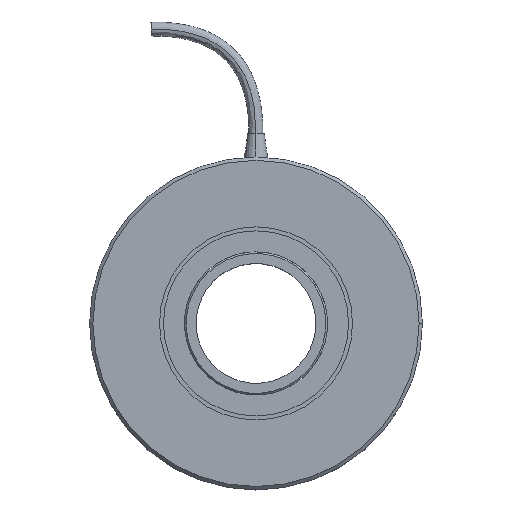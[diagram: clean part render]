
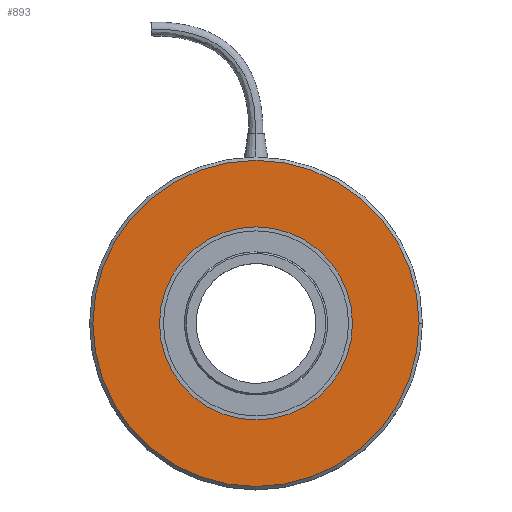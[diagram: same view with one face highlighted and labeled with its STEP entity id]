
A CAD part, top view. The second image highlights one B-rep face of the part: STEP entity #893.
In plain terms, the highlighted planar face has unit normal (0, 0, 1).
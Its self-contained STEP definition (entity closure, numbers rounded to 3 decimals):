
#83 = EDGE_CURVE ( 'NONE', #480, #497, #1840, .T. ) ;
#87 = PLANE ( 'NONE',  #1807 ) ;
#101 = ORIENTED_EDGE ( 'NONE', *, *, #1431, .T. ) ;
#179 = CIRCLE ( 'NONE', #219, 49. ) ;
#219 = AXIS2_PLACEMENT_3D ( 'NONE', #579, #1899, #424 ) ;
#241 = FACE_BOUND ( 'NONE', #642, .T. ) ;
#258 = CARTESIAN_POINT ( 'NONE',  ( -29., 0., 22. ) ) ;
#283 = CIRCLE ( 'NONE', #472, 49. ) ;
#400 = CARTESIAN_POINT ( 'NONE',  ( 0., 0., 22. ) ) ;
#416 = FACE_OUTER_BOUND ( 'NONE', #630, .T. ) ;
#420 = ORIENTED_EDGE ( 'NONE', *, *, #1826, .F. ) ;
#424 = DIRECTION ( 'NONE',  ( 1., 0., 0. ) ) ;
#472 = AXIS2_PLACEMENT_3D ( 'NONE', #1642, #588, #1485 ) ;
#480 = VERTEX_POINT ( 'NONE', #737 ) ;
#497 = VERTEX_POINT ( 'NONE', #258 ) ;
#579 = CARTESIAN_POINT ( 'NONE',  ( 0., 0., 22. ) ) ;
#588 = DIRECTION ( 'NONE',  ( 0., 0., 1. ) ) ;
#606 = CARTESIAN_POINT ( 'NONE',  ( 0., 0., 22. ) ) ;
#630 = EDGE_LOOP ( 'NONE', ( #804, #101 ) ) ;
#642 = EDGE_LOOP ( 'NONE', ( #1327, #420 ) ) ;
#699 = DIRECTION ( 'NONE',  ( 0., 0., 1. ) ) ;
#700 = EDGE_CURVE ( 'NONE', #1025, #1343, #179, .T. ) ;
#737 = CARTESIAN_POINT ( 'NONE',  ( 29., 0., 22. ) ) ;
#753 = CARTESIAN_POINT ( 'NONE',  ( -49., 0., 22. ) ) ;
#804 = ORIENTED_EDGE ( 'NONE', *, *, #700, .T. ) ;
#881 = AXIS2_PLACEMENT_3D ( 'NONE', #606, #1792, #1525 ) ;
#893 = ADVANCED_FACE ( 'NONE', ( #241, #416 ), #87, .T. ) ;
#957 = CARTESIAN_POINT ( 'NONE',  ( 0., 0., 22. ) ) ;
#1003 = AXIS2_PLACEMENT_3D ( 'NONE', #957, #1291, #1419 ) ;
#1019 = DIRECTION ( 'NONE',  ( 1., 0., 0. ) ) ;
#1025 = VERTEX_POINT ( 'NONE', #753 ) ;
#1194 = CIRCLE ( 'NONE', #881, 29. ) ;
#1291 = DIRECTION ( 'NONE',  ( 0., 0., 1. ) ) ;
#1327 = ORIENTED_EDGE ( 'NONE', *, *, #83, .F. ) ;
#1343 = VERTEX_POINT ( 'NONE', #1729 ) ;
#1419 = DIRECTION ( 'NONE',  ( 1., 0., 0. ) ) ;
#1431 = EDGE_CURVE ( 'NONE', #1343, #1025, #283, .T. ) ;
#1485 = DIRECTION ( 'NONE',  ( 1., 0., 0. ) ) ;
#1525 = DIRECTION ( 'NONE',  ( 1., 0., 0. ) ) ;
#1642 = CARTESIAN_POINT ( 'NONE',  ( 0., 0., 22. ) ) ;
#1729 = CARTESIAN_POINT ( 'NONE',  ( 49., 0., 22. ) ) ;
#1792 = DIRECTION ( 'NONE',  ( 0., 0., 1. ) ) ;
#1807 = AXIS2_PLACEMENT_3D ( 'NONE', #400, #699, #1019 ) ;
#1826 = EDGE_CURVE ( 'NONE', #497, #480, #1194, .T. ) ;
#1840 = CIRCLE ( 'NONE', #1003, 29. ) ;
#1899 = DIRECTION ( 'NONE',  ( 0., 0., 1. ) ) ;
